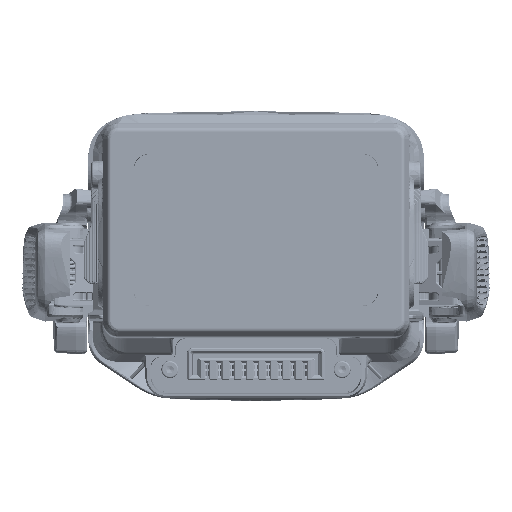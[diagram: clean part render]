
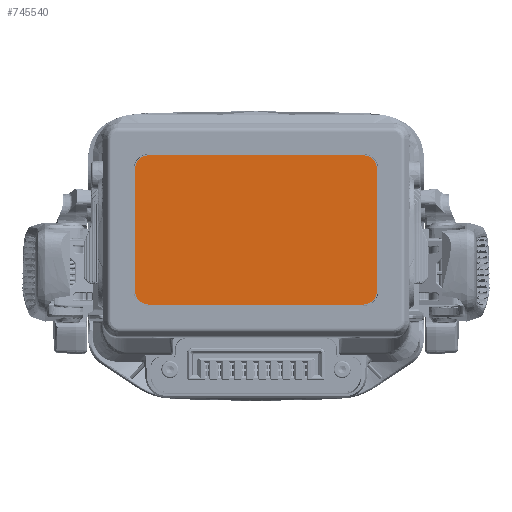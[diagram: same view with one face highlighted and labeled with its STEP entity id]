
A CAD part, top view. The second image highlights one B-rep face of the part: STEP entity #745540.
In plain terms, the highlighted planar face has unit normal (0, 0, 1).
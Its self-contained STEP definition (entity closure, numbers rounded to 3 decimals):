
#745321=CARTESIAN_POINT('',(22.,12.5,0.25));
#745322=DIRECTION('',(0.,0.,1.));
#745323=DIRECTION('',(1.,0.,0.));
#745324=AXIS2_PLACEMENT_3D('',#745321,#745322,#745323);
#745326=DIRECTION('',(0.,1.,0.));
#745327=VECTOR('',#745326,25.);
#745328=CARTESIAN_POINT('',(24.8,-12.5,0.25));
#745329=LINE('',#745328,#745327);
#745330=CARTESIAN_POINT('',(22.,-12.5,0.25));
#745331=DIRECTION('',(0.,0.,1.));
#745332=DIRECTION('',(0.,-1.,0.));
#745333=AXIS2_PLACEMENT_3D('',#745330,#745331,#745332);
#745335=DIRECTION('',(1.,0.,0.));
#745336=VECTOR('',#745335,44.);
#745337=CARTESIAN_POINT('',(-22.,-15.3,0.25));
#745338=LINE('',#745337,#745336);
#745339=CARTESIAN_POINT('',(-22.,-12.5,0.25));
#745340=DIRECTION('',(0.,0.,1.));
#745341=DIRECTION('',(-1.,0.,0.));
#745342=AXIS2_PLACEMENT_3D('',#745339,#745340,#745341);
#745344=DIRECTION('',(0.,-1.,0.));
#745345=VECTOR('',#745344,25.);
#745346=CARTESIAN_POINT('',(-24.8,12.5,0.25));
#745347=LINE('',#745346,#745345);
#745348=CARTESIAN_POINT('',(-22.,12.5,0.25));
#745349=DIRECTION('',(0.,0.,1.));
#745350=DIRECTION('',(0.,1.,0.));
#745351=AXIS2_PLACEMENT_3D('',#745348,#745349,#745350);
#745353=DIRECTION('',(-1.,0.,0.));
#745354=VECTOR('',#745353,44.);
#745355=CARTESIAN_POINT('',(22.,15.3,0.25));
#745356=LINE('',#745355,#745354);
#745361=CARTESIAN_POINT('',(24.8,12.5,0.25));
#745362=VERTEX_POINT('',#745361);
#745363=CARTESIAN_POINT('',(22.,15.3,0.25));
#745364=VERTEX_POINT('',#745363);
#745369=CARTESIAN_POINT('',(-22.,15.3,0.25));
#745370=VERTEX_POINT('',#745369);
#745371=CARTESIAN_POINT('',(-24.8,12.5,0.25));
#745372=VERTEX_POINT('',#745371);
#745377=CARTESIAN_POINT('',(-24.8,-12.5,0.25));
#745378=VERTEX_POINT('',#745377);
#745379=CARTESIAN_POINT('',(-22.,-15.3,0.25));
#745380=VERTEX_POINT('',#745379);
#745385=CARTESIAN_POINT('',(22.,-15.3,0.25));
#745386=VERTEX_POINT('',#745385);
#745387=CARTESIAN_POINT('',(24.8,-12.5,0.25));
#745388=VERTEX_POINT('',#745387);
#745525=CARTESIAN_POINT('',(0.,0.,0.25));
#745526=DIRECTION('',(0.,0.,1.));
#745527=DIRECTION('',(1.,0.,0.));
#745528=AXIS2_PLACEMENT_3D('',#745525,#745526,#745527);
#745529=PLANE('',#745528);
#745530=ORIENTED_EDGE('',*,*,#745421,.F.);
#745531=ORIENTED_EDGE('',*,*,#745437,.F.);
#745532=ORIENTED_EDGE('',*,*,#745450,.F.);
#745533=ORIENTED_EDGE('',*,*,#745463,.F.);
#745534=ORIENTED_EDGE('',*,*,#745478,.F.);
#745535=ORIENTED_EDGE('',*,*,#745491,.F.);
#745536=ORIENTED_EDGE('',*,*,#745506,.F.);
#745537=ORIENTED_EDGE('',*,*,#745518,.F.);
#745538=EDGE_LOOP('',(#745530,#745531,#745532,#745533,#745534,#745535,#745536,
#745537));
#745539=FACE_OUTER_BOUND('',#745538,.F.);
#745325=CIRCLE('',#745324,2.8);
#745334=CIRCLE('',#745333,2.8);
#745343=CIRCLE('',#745342,2.8);
#745352=CIRCLE('',#745351,2.8);
#745421=EDGE_CURVE('',#745362,#745364,#745325,.T.);
#745437=EDGE_CURVE('',#745388,#745362,#745329,.T.);
#745450=EDGE_CURVE('',#745386,#745388,#745334,.T.);
#745463=EDGE_CURVE('',#745380,#745386,#745338,.T.);
#745478=EDGE_CURVE('',#745378,#745380,#745343,.T.);
#745491=EDGE_CURVE('',#745372,#745378,#745347,.T.);
#745506=EDGE_CURVE('',#745370,#745372,#745352,.T.);
#745518=EDGE_CURVE('',#745364,#745370,#745356,.T.);
#745540=ADVANCED_FACE('',(#745539),#745529,.T.);
